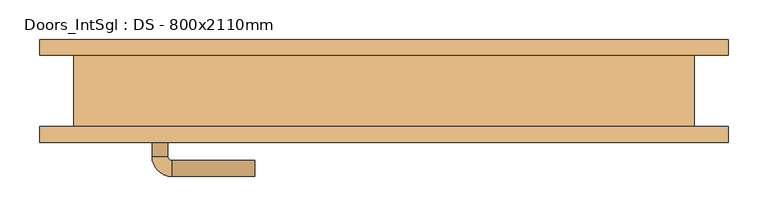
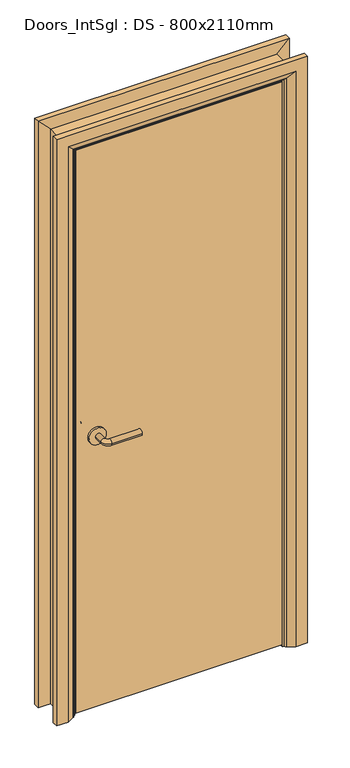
"""IFC4 building model written with IfcOpenShell, lengths in millimetres: door geometry, Doors_IntSgl : DS - 800x2110mm."""

from ifc_helpers import new_model, si_unit, point, frame, frame_2d, origin, place, context, project, spatial, polyline, circle_curve, ellipse_curve, trimmed, segment, composite_curve, outline, extrude, faceted_brep, source, transform, mapped, element, save
from ifc_brep_helpers import plane_surface, cylinder_surface, revolved_surface, advanced_brep


def doors_intsgl_ds_800x2110mm_b6fedfb1(model_context):
    return source(origin(), model_context, "Body", "SolidModel", [
        advanced_brep(
        [(-293.0, 1.0, 1000.0), (-273.0, 1.0, 1000.0), (-293.0, 31.0, 1000.0), (-273.0, 31.0, 1000.0), (-268.0, 36.0, 1000.0), (-268.0, 56.0, 1000.0), (-163.0, 56.0, 1000.0), (-163.0, 36.0, 1000.0)],
        [
            (0, 1, circle_curve(frame((-283.0, 1.0, 1000.0), z_axis=(0.0, -1.0, 0.0), x_axis=(1.0, 0.0, 0.0)), 10.0)),
            (1, 0, circle_curve(frame((-283.0, 1.0, 1000.0), z_axis=(0.0, -1.0, 0.0), x_axis=(1.0, 0.0, 0.0)), 10.0)),
            (0, 2),
            (2, 3, circle_curve(frame((-283.0, 31.0, 1000.0), z_axis=(0.0, -1.0, 0.0), x_axis=(1.0, 0.0, 0.0)), 10.0)),
            (3, 1),
            (3, 2, circle_curve(frame((-283.0, 31.0, 1000.0), z_axis=(0.0, -1.0, 0.0), x_axis=(1.0, 0.0, 0.0)), 10.0)),
            (4, 3, circle_curve(frame((-268.0, 31.0, 1000.0), z_axis=(0.0, 0.0, 1.0), x_axis=(-1.0, 0.0, 0.0)), 5.0)),
            (2, 5, circle_curve(frame((-268.0, 31.0, 1000.0), z_axis=(0.0, 0.0, -1.0), x_axis=(-1.0, 0.0, 0.0)), 25.0)),
            (5, 4, circle_curve(frame((-268.0, 46.0, 1000.0), z_axis=(-1.0, 0.0, 0.0), x_axis=(0.0, -1.0, 0.0)), 10.0)),
            (4, 5, circle_curve(frame((-268.0, 46.0, 1000.0), z_axis=(-1.0, 0.0, 0.0), x_axis=(0.0, -1.0, 0.0)), 10.0)),
            (6, 7, circle_curve(frame((-163.0, 46.0, 1000.0), z_axis=(1.0, 0.0, 0.0), x_axis=(0.0, -1.0, 0.0)), 10.0)),
            (7, 6, circle_curve(frame((-163.0, 46.0, 1000.0), z_axis=(1.0, 0.0, 0.0), x_axis=(0.0, -1.0, 0.0)), 10.0)),
            (5, 6),
            (7, 4),
        ],
        [
            plane_surface(frame((-283.0, 1.0, 1000.0), z_axis=(0.0, -1.0, 0.0), x_axis=(0.0, 0.0, 1.0))),
            cylinder_surface(frame((-283.0, 1.0, 1000.0), z_axis=(0.0, -1.0, 0.0), x_axis=(1.0, 0.0, 0.0)), 10.0),
            revolved_surface(trimmed(ellipse_curve(frame((-283.0, 31.0, 1000.0), z_axis=(0.0, -1.0, 0.0), x_axis=(1.0, 0.0, 0.0)), 10.0, 10.0), [point((-293.0, 31.0, 1000.0))], [point((-273.0, 31.0, 1000.0))], True, "CARTESIAN"), (-268.0, 31.0, 1000.0), (0.0, 0.0, -1.0)),
            revolved_surface(trimmed(ellipse_curve(frame((-283.0, 31.0, 1000.0), z_axis=(0.0, -1.0, 0.0), x_axis=(1.0, 0.0, 0.0)), 10.0, 10.0), [point((-273.0, 31.0, 1000.0))], [point((-293.0, 31.0, 1000.0))], True, "CARTESIAN"), (-268.0, 31.0, 1000.0), (0.0, 0.0, -1.0)),
            plane_surface(frame((-163.0, 46.0, 1000.0), z_axis=(1.0, 0.0, 0.0), x_axis=(0.0, 0.0, 1.0))),
            cylinder_surface(frame((-268.0, 46.0, 1000.0), z_axis=(-1.0, 0.0, 0.0), x_axis=(0.0, -1.0, 0.0)), 10.0),
        ],
        [
            (0, [[1, 2]]),
            (1, [[-1, 3, 4, 5]]),
            (1, [[-2, -5, 6, -3]]),
            (2, [[7, -4, 8, 9]]),
            (3, [[-8, -6, -7, 10]]),
            (4, [[11, 12]]),
            (5, [[-9, 13, -12, 14]]),
            (5, [[-10, -14, -11, -13]]),
        ],
    ),
        extrude(outline(composite_curve([segment(trimmed(circle_curve(frame_2d((1000.0, -285.5)), 30.0), [point((1000.0, -315.5))], [point((1000.0, -255.5))], False, "CARTESIAN"), True, "CONTINUOUS"), segment(trimmed(circle_curve(frame_2d((1000.0, -285.5)), 30.0), [point((1000.0, -255.5))], [point((1000.0, -315.5))], False, "CARTESIAN"), True, "CONTINUOUS")], self_intersect=False)), frame((0.0, -7.0, 0.0), z_axis=(0.0, 1.0, 0.0), x_axis=(0.0, 0.0, 1.0)), (0.0, 0.0, 1.0), 8.0),
        advanced_brep(
        [(-293.0, -53.0, 1000.0), (-273.0, -53.0, 1000.0), (-273.0, -83.0, 1000.0), (-293.0, -83.0, 1000.0), (-268.0, -88.0, 1000.0), (-268.0, -108.0, 1000.0), (-163.0, -108.0, 1000.0), (-163.0, -88.0, 1000.0)],
        [
            (0, 1, circle_curve(frame((-283.0, -53.0, 1000.0), z_axis=(0.0, 1.0, 0.0), x_axis=(1.0, 0.0, 0.0)), 10.0)),
            (1, 0, circle_curve(frame((-283.0, -53.0, 1000.0), z_axis=(0.0, 1.0, 0.0), x_axis=(1.0, 0.0, 0.0)), 10.0)),
            (1, 2),
            (2, 3, circle_curve(frame((-283.0, -83.0, 1000.0), z_axis=(0.0, 1.0, 0.0), x_axis=(1.0, 0.0, 0.0)), 10.0)),
            (3, 0),
            (3, 2, circle_curve(frame((-283.0, -83.0, 1000.0), z_axis=(0.0, 1.0, 0.0), x_axis=(1.0, 0.0, 0.0)), 10.0)),
            (4, 5, circle_curve(frame((-268.0, -98.0, 1000.0), z_axis=(-1.0, 0.0, 0.0), x_axis=(0.0, 1.0, 0.0)), 10.0)),
            (5, 3, circle_curve(frame((-268.0, -83.0, 1000.0), z_axis=(0.0, 0.0, -1.0), x_axis=(-1.0, 0.0, 0.0)), 25.0)),
            (2, 4, circle_curve(frame((-268.0, -83.0, 1000.0), z_axis=(0.0, 0.0, 1.0), x_axis=(-1.0, 0.0, 0.0)), 5.0)),
            (5, 4, circle_curve(frame((-268.0, -98.0, 1000.0), z_axis=(-1.0, 0.0, 0.0), x_axis=(0.0, 1.0, 0.0)), 10.0)),
            (6, 7, circle_curve(frame((-163.0, -98.0, 1000.0), z_axis=(1.0, 0.0, 0.0), x_axis=(0.0, 1.0, 0.0)), 10.0)),
            (7, 6, circle_curve(frame((-163.0, -98.0, 1000.0), z_axis=(1.0, 0.0, 0.0), x_axis=(0.0, 1.0, 0.0)), 10.0)),
            (4, 7),
            (6, 5),
        ],
        [
            plane_surface(frame((-283.0, -53.0, 1000.0), z_axis=(0.0, 1.0, 0.0), x_axis=(0.0, 0.0, 1.0))),
            cylinder_surface(frame((-283.0, -53.0, 1000.0), z_axis=(0.0, 1.0, 0.0), x_axis=(1.0, 0.0, 0.0)), 10.0),
            revolved_surface(trimmed(ellipse_curve(frame((-283.0, -83.0, 1000.0), z_axis=(0.0, -1.0, 0.0), x_axis=(1.0, 0.0, 0.0)), 10.0, 10.0), [point((-293.0, -83.0, 1000.0))], [point((-273.0, -83.0, 1000.0))], True, "CARTESIAN"), (-268.0, -83.0, 1000.0), (0.0, 0.0, -1.0)),
            revolved_surface(trimmed(ellipse_curve(frame((-283.0, -83.0, 1000.0), z_axis=(0.0, -1.0, 0.0), x_axis=(1.0, 0.0, 0.0)), 10.0, 10.0), [point((-273.0, -83.0, 1000.0))], [point((-293.0, -83.0, 1000.0))], True, "CARTESIAN"), (-268.0, -83.0, 1000.0), (0.0, 0.0, -1.0)),
            plane_surface(frame((-163.0, -98.0, 1000.0), z_axis=(1.0, 0.0, 0.0), x_axis=(0.0, 0.0, 1.0))),
            cylinder_surface(frame((-268.0, -98.0, 1000.0), z_axis=(-1.0, 0.0, 0.0), x_axis=(0.0, 1.0, 0.0)), 10.0),
        ],
        [
            (0, [[1, 2]]),
            (1, [[3, 4, 5, -2]]),
            (1, [[-5, 6, -3, -1]]),
            (2, [[7, 8, -4, 9]]),
            (3, [[10, -9, -6, -8]]),
            (4, [[11, 12]]),
            (5, [[13, -11, 14, -7]]),
            (5, [[-14, -12, -13, -10]]),
        ],
    ),
        extrude(outline(composite_curve([segment(trimmed(circle_curve(frame_2d((1000.0, -285.5)), 30.0), [point((1000.0, -315.5))], [point((1000.0, -255.5))], False, "CARTESIAN"), True, "CONTINUOUS"), segment(trimmed(circle_curve(frame_2d((1000.0, -285.5)), 30.0), [point((1000.0, -255.5))], [point((1000.0, -315.5))], False, "CARTESIAN"), True, "CONTINUOUS")], self_intersect=False)), frame((0.0, -53.0, 0.0), z_axis=(0.0, 1.0, 0.0), x_axis=(0.0, 0.0, 1.0)), (0.0, 0.0, 1.0), 8.0),
        extrude(outline(polyline([(358.0, -7.0), (358.0, -45.0), (-358.0, -45.0), (-358.0, -7.0), (358.0, -7.0)])), frame((0.0, 0.0, 8.0), z_axis=(0.0, 0.0, 1.0), x_axis=(1.0, 0.0, 0.0)), (0.0, 0.0, 1.0), 2060.0),
        advanced_brep(
        [(435.0, -65.0, 0.0), (395.0, -65.0, 0.0), (369.0, -51.0, 0.0), (365.0, -45.0, 0.0), (435.0, -45.0, 0.0), (435.0, -45.0, 2145.0), (435.0, -65.0, 2145.0), (365.0, -45.0, 2075.0), (-365.0, -45.0, 2075.0), (-365.0, -45.0, 0.0), (-435.0, -45.0, 0.0), (-435.0, -45.0, 2145.0), (369.0, -51.0, 2079.0), (395.0, -65.0, 2105.0), (-435.0, -65.0, 2145.0), (-435.0, -65.0, 0.0), (-395.0, -65.0, 0.0), (-395.0, -65.0, 2105.0), (-369.0, -51.0, 0.0), (-369.0, -51.0, 2079.0)],
        [
            (0, 1),
            (1, 2),
            (2, 3, circle_curve(frame((373.0, -44.0, 0.0), z_axis=(0.0, 0.0, -1.0), x_axis=(1.0, 0.0, 0.0)), 8.0622577)),
            (3, 4),
            (4, 0),
            (4, 5),
            (5, 6),
            (6, 0),
            (3, 7),
            (7, 8),
            (8, 9),
            (9, 10),
            (10, 11),
            (11, 5),
            (2, 12),
            (12, 7, ellipse_curve(frame((373.0, -44.0, 2083.0), z_axis=(0.7071067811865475, 0.0, -0.7071067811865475), x_axis=(-0.7071067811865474, 0.0, -0.7071067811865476)), 11.4017543, 8.0622577)),
            (1, 13),
            (13, 12),
            (6, 14),
            (14, 15),
            (15, 16),
            (16, 17),
            (17, 13),
            (10, 15),
            (14, 11),
            (9, 18, circle_curve(frame((-373.0, -44.0, 0.0), z_axis=(0.0, 0.0, -1.0), x_axis=(-1.0, 0.0, 0.0)), 8.0622577)),
            (18, 16),
            (19, 18),
            (8, 19, ellipse_curve(frame((-373.0, -44.0, 2083.0), z_axis=(-0.7071067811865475, 0.0, -0.7071067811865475), x_axis=(-0.7071067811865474, 0.0, 0.7071067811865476)), 11.4017543, 8.0622577)),
            (19, 17),
            (12, 19),
        ],
        [
            plane_surface(frame((365.0, -45.0, 0.0), z_axis=(0.0, 0.0, -1.0), x_axis=(0.0, 1.0, 0.0))),
            plane_surface(frame((435.0, -65.0, 0.0), z_axis=(1.0, 0.0, 0.0), x_axis=(0.0, 0.0, 1.0))),
            plane_surface(frame((435.0, -45.0, 0.0), z_axis=(0.0, 1.0, 0.0), x_axis=(0.0, 0.0, 1.0))),
            cylinder_surface(frame((373.0, -44.0, 0.0), z_axis=(0.0, 0.0, -1.0), x_axis=(1.0, 0.0, 0.0)), 8.0622577),
            plane_surface(frame((369.0, -51.0, 0.0), z_axis=(-0.4740998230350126, -0.880471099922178, 0.0), x_axis=(0.0, 0.0, 1.0))),
            plane_surface(frame((395.0, -65.0, 0.0), z_axis=(0.0, -1.0, 0.0), x_axis=(0.0, 0.0, 1.0))),
            plane_surface(frame((-435.0, -65.0, 2145.0), z_axis=(-1.0, 0.0, 0.0), x_axis=(0.0, 0.0, -1.0))),
            plane_surface(frame((-365.0, -45.0, 0.0), z_axis=(0.0, 0.0, -1.0), x_axis=(0.0, 1.0, 0.0))),
            cylinder_surface(frame((-373.0, -44.0, 2075.0), z_axis=(0.0, 0.0, 1.0), x_axis=(-1.0, 0.0, 0.0)), 8.0622577),
            plane_surface(frame((-369.0, -51.0, 2079.0), z_axis=(0.47409982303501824, -0.8804710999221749, 0.0), x_axis=(0.0, 0.0, -1.0))),
            plane_surface(frame((435.0, -65.0, 2145.0), z_axis=(0.0, 0.0, 1.0), x_axis=(-1.0, 0.0, 0.0))),
            cylinder_surface(frame((365.0, -44.0, 2083.0), z_axis=(1.0, 0.0, 0.0), x_axis=(0.0, 0.0, 1.0)), 8.0622577),
            plane_surface(frame((369.0, -51.0, 2079.0), z_axis=(0.0, -0.8804710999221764, -0.4740998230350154), x_axis=(-1.0, 0.0, 0.0))),
        ],
        [
            (0, [[1, 2, 3, 4, 5]]),
            (1, [[6, 7, 8, -5]]),
            (2, [[9, 10, 11, 12, 13, 14, -6, -4]]),
            (3, [[15, 16, -9, -3]]),
            (4, [[17, 18, -15, -2]]),
            (5, [[-8, 19, 20, 21, 22, 23, -17, -1]]),
            (6, [[-13, 24, -20, 25]]),
            (7, [[-24, -12, 26, 27, -21]]),
            (8, [[28, -26, -11, 29]]),
            (9, [[-22, -27, -28, 30]]),
            (10, [[-14, -25, -19, -7]]),
            (11, [[31, -29, -10, -16]]),
            (12, [[-23, -30, -31, -18]]),
        ],
    ),
        extrude(outline(polyline([(0.0, -341.0), (2051.0, -341.0), (2051.0, 341.0), (0.0, 341.0), (0.0, 360.0), (2070.0, 360.0), (2070.0, -360.0), (0.0, -360.0), (0.0, -341.0)])), frame((0.0, -5.0, 0.0), z_axis=(0.0, 1.0, 0.0), x_axis=(0.0, 0.0, 1.0)), (0.0, 0.0, 1.0), 32.0),
        advanced_brep(
        [(-435.0, 65.0, 0.0), (-395.0, 65.0, 0.0), (-369.0, 51.0, 0.0), (-365.0, 45.0, 0.0), (-435.0, 45.0, 0.0), (-435.0, 45.0, 2145.0), (-435.0, 65.0, 2145.0), (-365.0, 45.0, 2075.0), (-369.0, 51.0, 2079.0), (-395.0, 65.0, 2105.0), (435.0, 65.0, 0.0), (435.0, 45.0, 0.0), (365.0, 45.0, 0.0), (369.0, 51.0, 0.0), (395.0, 65.0, 0.0), (435.0, 65.0, 2145.0), (395.0, 65.0, 2105.0), (369.0, 51.0, 2079.0), (365.0, 45.0, 2075.0), (435.0, 45.0, 2145.0)],
        [
            (0, 1),
            (1, 2),
            (2, 3, circle_curve(frame((-373.0, 44.0, 0.0), z_axis=(0.0, 0.0, -1.0), x_axis=(-1.0, 0.0, 0.0)), 8.0622577)),
            (3, 4),
            (4, 0),
            (4, 5),
            (5, 6),
            (6, 0),
            (3, 7),
            (7, 5),
            (2, 8),
            (8, 7, ellipse_curve(frame((-373.0, 44.0, 2083.0), z_axis=(-0.7071067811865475, 0.0, -0.7071067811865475), x_axis=(0.7071067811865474, 0.0, -0.7071067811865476)), 11.4017543, 8.0622577)),
            (1, 9),
            (9, 8),
            (6, 9),
            (10, 11),
            (11, 12),
            (12, 13, circle_curve(frame((373.0, 44.0, 0.0), z_axis=(0.0, 0.0, -1.0), x_axis=(1.0, 0.0, 0.0)), 8.0622577)),
            (13, 14),
            (14, 10),
            (15, 10),
            (14, 16),
            (16, 15),
            (13, 17),
            (17, 16),
            (12, 18),
            (18, 17, ellipse_curve(frame((373.0, 44.0, 2083.0), z_axis=(0.7071067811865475, 0.0, -0.7071067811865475), x_axis=(0.7071067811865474, 0.0, 0.7071067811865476)), 11.4017543, 8.0622577)),
            (11, 19),
            (19, 18),
            (15, 19),
            (5, 19),
            (15, 6),
            (7, 18),
            (8, 17),
            (9, 16),
        ],
        [
            plane_surface(frame((-365.0, 117.8010989, 0.0), z_axis=(0.0, 0.0, -1.0), x_axis=(1.0, 0.0, 0.0))),
            plane_surface(frame((-435.0, 65.0, 0.0), z_axis=(-1.0, 0.0, 0.0), x_axis=(0.0, 0.0, 1.0))),
            plane_surface(frame((-435.0, 45.0, 0.0), z_axis=(0.0, -1.0, 0.0), x_axis=(0.0, 0.0, 1.0))),
            cylinder_surface(frame((-373.0, 44.0, 0.0), z_axis=(0.0, 0.0, -1.0), x_axis=(-1.0, 0.0, 0.0)), 8.0622577),
            plane_surface(frame((-369.0, 51.0, 0.0), z_axis=(0.4740998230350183, 0.8804710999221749, 0.0), x_axis=(0.0, 0.0, 1.0))),
            plane_surface(frame((-395.0, 65.0, 0.0), z_axis=(0.0, 1.0, 0.0), x_axis=(0.0, 0.0, 1.0))),
            plane_surface(frame((365.0, 117.8010989, 0.0), z_axis=(0.0, 0.0, -1.0), x_axis=(-1.0, 0.0, 0.0))),
            plane_surface(frame((395.0, 65.0, 2105.0), z_axis=(0.0, 1.0, 0.0), x_axis=(0.0, 0.0, -1.0))),
            plane_surface(frame((369.0, 51.0, 2079.0), z_axis=(-0.4740998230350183, 0.8804710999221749, 0.0), x_axis=(0.0, 0.0, -1.0))),
            cylinder_surface(frame((373.0, 44.0, 2075.0), z_axis=(0.0, 0.0, 1.0), x_axis=(1.0, 0.0, 0.0)), 8.0622577),
            plane_surface(frame((435.0, 45.0, 2145.0), z_axis=(0.0, -1.0, 0.0), x_axis=(0.0, 0.0, -1.0))),
            plane_surface(frame((435.0, 65.0, 2145.0), z_axis=(1.0, 0.0, 0.0), x_axis=(0.0, 0.0, -1.0))),
            plane_surface(frame((-435.0, 65.0, 2145.0), z_axis=(0.0, 0.0, 1.0), x_axis=(1.0, 0.0, 0.0))),
            plane_surface(frame((-435.0, 45.0, 2145.0), z_axis=(0.0, -1.0, 0.0), x_axis=(1.0, 0.0, 0.0))),
            cylinder_surface(frame((-365.0, 44.0, 2083.0), z_axis=(-1.0, 0.0, 0.0), x_axis=(0.0, 0.0, 1.0)), 8.0622577),
            plane_surface(frame((-369.0, 51.0, 2079.0), z_axis=(0.0, 0.8804710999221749, -0.4740998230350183), x_axis=(1.0, 0.0, 0.0))),
            plane_surface(frame((-395.0, 65.0, 2105.0), z_axis=(0.0, 1.0, 0.0), x_axis=(1.0, 0.0, 0.0))),
        ],
        [
            (0, [[1, 2, 3, 4, 5]]),
            (1, [[6, 7, 8, -5]]),
            (2, [[9, 10, -6, -4]]),
            (3, [[11, 12, -9, -3]]),
            (4, [[13, 14, -11, -2]]),
            (5, [[-8, 15, -13, -1]]),
            (6, [[16, 17, 18, 19, 20]]),
            (7, [[21, -20, 22, 23]]),
            (8, [[-22, -19, 24, 25]]),
            (9, [[-24, -18, 26, 27]]),
            (10, [[-26, -17, 28, 29]]),
            (11, [[-28, -16, -21, 30]]),
            (12, [[31, -30, 32, -7]]),
            (13, [[33, -29, -31, -10]]),
            (14, [[34, -27, -33, -12]]),
            (15, [[35, -25, -34, -14]]),
            (16, [[-32, -23, -35, -15]]),
        ],
    ),
        faceted_brep([(-360.0, -45.0, 0.0), (-392.0, -45.0, 0.0), (-392.0, 45.0, 0.0), (-360.0, 45.0, 0.0), (-360.0, 45.0, 2070.0), (-360.0, -45.0, 2070.0), (-392.0, 45.0, 2102.0), (-392.0, -45.0, 2102.0), (360.0, -45.0, 0.0), (360.0, 45.0, 0.0), (392.0, 45.0, 0.0), (392.0, -45.0, 0.0), (360.0, -45.0, 2070.0), (392.0, -45.0, 2102.0), (392.0, 45.0, 2102.0), (360.0, 45.0, 2070.0)], [[[0, 1, 2, 3]], [[3, 4, 5, 0]], [[2, 6, 4, 3]], [[1, 7, 6, 2]], [[0, 5, 7, 1]], [[8, 9, 10, 11]], [[12, 8, 11, 13]], [[13, 11, 10, 14]], [[14, 10, 9, 15]], [[15, 9, 8, 12]], [[4, 15, 12, 5]], [[6, 14, 15, 4]], [[7, 13, 14, 6]], [[5, 12, 13, 7]]]),
    ])


if __name__ == "__main__":
    model = new_model("IFC4")
    model_context = context("Model", 3, world=origin())
    ifc_project = project(units=[si_unit("LENGTHUNIT", "METRE", prefix="MILLI")], contexts=[model_context])
    site = spatial("IfcSite", under=ifc_project)
    building = spatial("IfcBuilding", under=site)
    placement = place(None, origin())
    doors_intsgl_ds_800x2110mm_shape = doors_intsgl_ds_800x2110mm_b6fedfb1(model_context)
    element("IfcDoor", 1, ObjectType="Doors_IntSgl : DS - 800x2110mm", at=placement, inside=building, context=model_context, shape_type="MappedRepresentation", body=[
        mapped(doors_intsgl_ds_800x2110mm_shape, transform((0.0, 0.0, 0.0), x_axis=(1.0, 0.0, 0.0), y_axis=(0.0, 1.0, 0.0), z_axis=(0.0, 0.0, 1.0))),
    ])
    save(model, "model.ifc")
